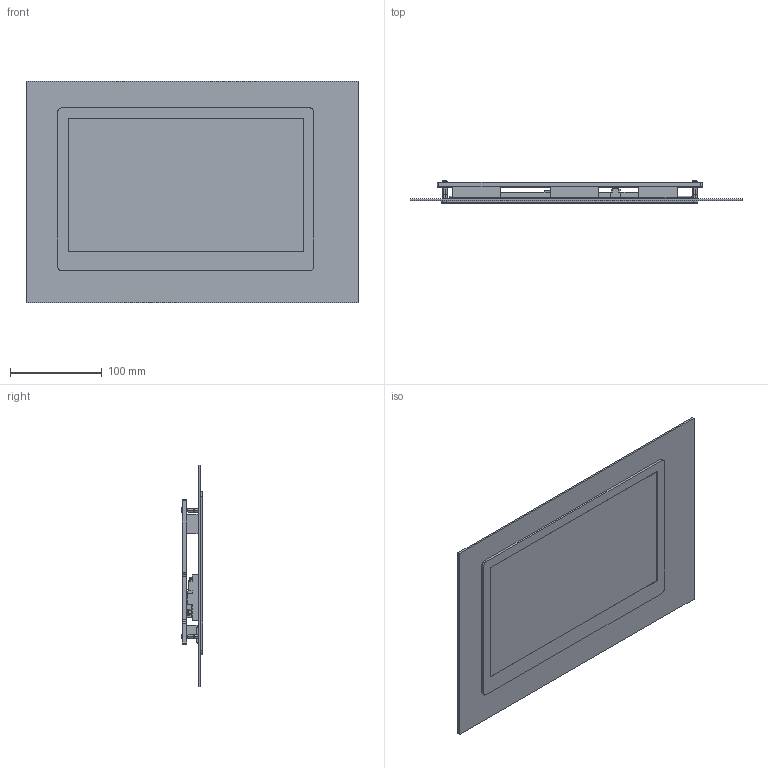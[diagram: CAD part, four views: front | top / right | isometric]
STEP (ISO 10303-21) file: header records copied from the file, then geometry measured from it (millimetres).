
FILE_DESCRIPTION((''),'2;1');
FILE_NAME('116_RNM_ASM','2021-10-16T09:23:01',('zhanxiaohua'),(''),'CREO PARAMETRIC BY PTC INC, 2020154','CREO PARAMETRIC BY PTC INC, 2020154','');
FILE_SCHEMA(('CONFIG_CONTROL_DESIGN','GEOMETRIC_VALIDATION_PROPERTIES_MIM'));
Length unit declared in the file: millimetre
Products named in the file (8): 116_RNM; PRT0001_RNM; PRT0002_RNM; EVA_RNM; TONGZHU_RNM; M3X6_RNM; PM3X8_RNM; 116_RNM_ASM
Assembly tree (16 placements, depth 2):
  116_RNM_ASM
    116_RNM
    PRT0001_RNM
    PRT0002_RNM
    EVA_RNM
    TONGZHU_RNM  x4
    M3X6_RNM  x4
    PM3X8_RNM  x4
Bounding box: 362.72 x 24 x 242.22 mm (x, y, z)
Volume: 670488.6 mm3; surface area: 313443.2 mm2
Topology: 21 solids, 22 shells, 874 faces, 2290 edges, 1484 vertices
Faces by surface type: plane 642, cylinder 180, cone 32, torus 16, extrusion 2, sphere 2
Entity records: 27773 total; most frequent: CARTESIAN_POINT 3997, ORIENTED_EDGE 3670, DIRECTION 3510, EDGE_CURVE 1835, PRESENTATION_STYLE_ASSIGNMENT 1660, STYLED_ITEM 1656, VECTOR 1464, LINE 1462
